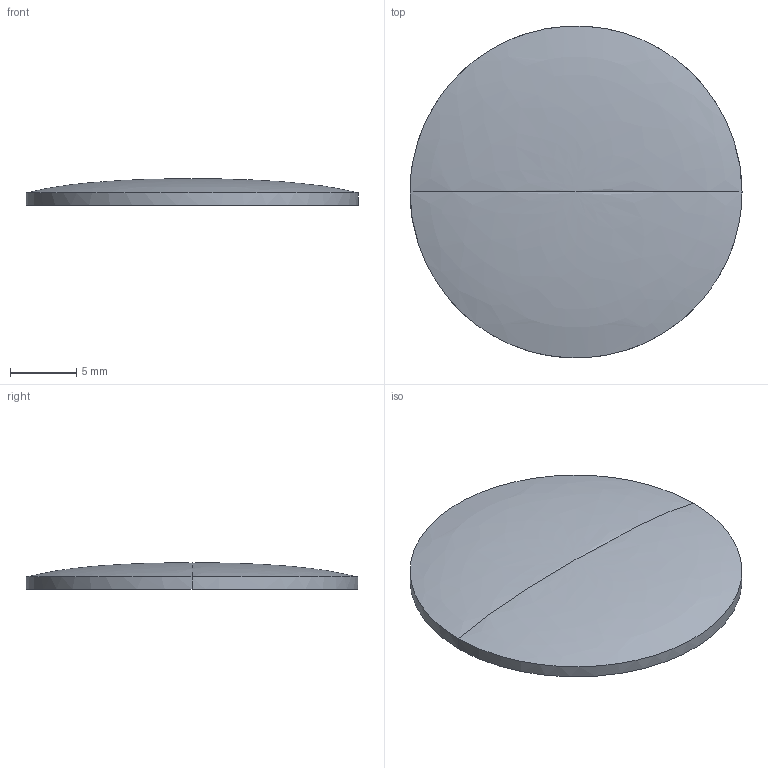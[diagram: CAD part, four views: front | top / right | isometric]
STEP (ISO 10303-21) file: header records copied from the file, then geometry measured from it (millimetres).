
FILE_DESCRIPTION(/* description */ (''),/* implementation_level */ '2;1');
FILE_NAME(/* name */ '10.optics-laser#10.7#la-lmp-2',/* time_stamp */ '2014-12-01T20:19:36+01:00',/* author */ (''),/* organization */ (''),/* preprocessor_version */ 'ST-DEVELOPER v14',/* originating_system */ '',/* authorisation */ '');
FILE_SCHEMA (('AUTOMOTIVE_DESIGN'));
Length unit declared in the file: millimetre
Products named in the file (1): Document
Bounding box: 25 x 24.98 x 2 mm (x, y, z)
Volume: 760.4 mm3; surface area: 1060 mm2
Topology: 1 solids, 1 shells, 5 faces, 11 edges, 6 vertices
Faces by surface type: bspline 4, plane 1
Entity records: 475 total; most frequent: CARTESIAN_POINT 329, ORIENTED_EDGE 18, PCURVE 18, DEFINITIONAL_REPRESENTATION 18, B_SPLINE_CURVE_WITH_KNOTS 16, SURFACE_CURVE 9, EDGE_CURVE 9, VERTEX_POINT 6
